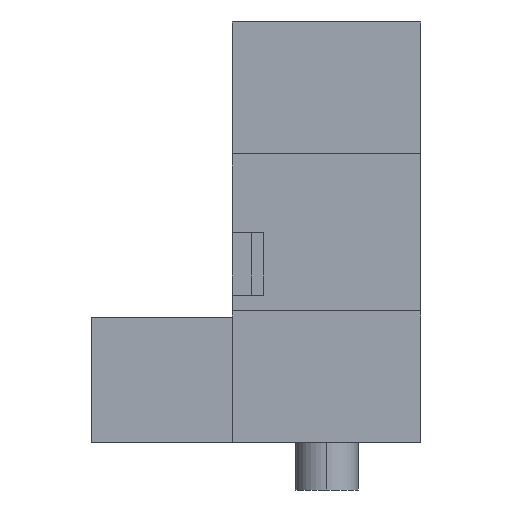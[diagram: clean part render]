
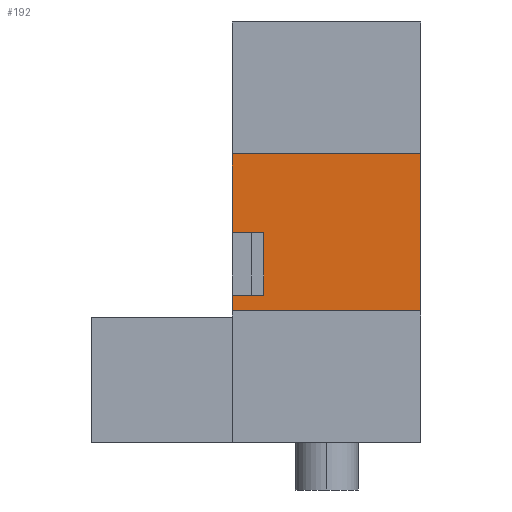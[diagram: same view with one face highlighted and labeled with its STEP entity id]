
A CAD part, left-side view. The second image highlights one B-rep face of the part: STEP entity #192.
In plain terms, the highlighted planar face has unit normal (-1, 0, 0) as drawn and (0, 1, 0) by its records, which use the part's own axes.
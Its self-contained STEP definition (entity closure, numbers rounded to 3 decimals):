
#26 = VERTEX_POINT ( 'NONE', #427 ) ;
#32 = EDGE_CURVE ( 'NONE', #26, #118, #421, .T. ) ;
#105 = VERTEX_POINT ( 'NONE', #600 ) ;
#110 = EDGE_CURVE ( 'NONE', #111, #105, #591, .T. ) ;
#111 = VERTEX_POINT ( 'NONE', #587 ) ;
#118 = VERTEX_POINT ( 'NONE', #583 ) ;
#148 = VERTEX_POINT ( 'NONE', #661 ) ;
#150 = EDGE_CURVE ( 'NONE', #148, #151, #660, .T. ) ;
#151 = VERTEX_POINT ( 'NONE', #656 ) ;
#192 = ADVANCED_FACE ( 'NONE', ( #727 ), #726, .F. ) ;
#193 = EDGE_LOOP ( 'NONE', ( #194, #198, #229, #230, #231, #232, #233, #234 ) ) ;
#194 = ORIENTED_EDGE ( 'NONE', *, *, #195, .F. ) ;
#195 = EDGE_CURVE ( 'NONE', #196, #197, #721, .T. ) ;
#196 = VERTEX_POINT ( 'NONE', #717 ) ;
#197 = VERTEX_POINT ( 'NONE', #716 ) ;
#198 = ORIENTED_EDGE ( 'NONE', *, *, #228, .T. ) ;
#204 = EDGE_CURVE ( 'NONE', #148, #26, #775, .T. ) ;
#228 = EDGE_CURVE ( 'NONE', #196, #111, #807, .T. ) ;
#229 = ORIENTED_EDGE ( 'NONE', *, *, #110, .T. ) ;
#230 = ORIENTED_EDGE ( 'NONE', *, *, #245, .F. ) ;
#231 = ORIENTED_EDGE ( 'NONE', *, *, #150, .F. ) ;
#232 = ORIENTED_EDGE ( 'NONE', *, *, #204, .T. ) ;
#233 = ORIENTED_EDGE ( 'NONE', *, *, #32, .T. ) ;
#234 = ORIENTED_EDGE ( 'NONE', *, *, #235, .F. ) ;
#235 = EDGE_CURVE ( 'NONE', #197, #118, #803, .T. ) ;
#245 = EDGE_CURVE ( 'NONE', #151, #105, #788, .T. ) ;
#418 = DIRECTION ( 'NONE',  ( 1., 0., 0. ) ) ;
#419 = VECTOR ( 'NONE', #418, 1000. ) ;
#420 = CARTESIAN_POINT ( 'NONE',  ( -2.5, 6.5, 3. ) ) ;
#421 = LINE ( 'NONE', #420, #419 ) ;
#427 = CARTESIAN_POINT ( 'NONE',  ( -2.5, 6.5, 3. ) ) ;
#583 = CARTESIAN_POINT ( 'NONE',  ( 0., 6.5, 3. ) ) ;
#587 = CARTESIAN_POINT ( 'NONE',  ( 2., 6.5, 3. ) ) ;
#588 = DIRECTION ( 'NONE',  ( 1., 0., 0. ) ) ;
#589 = VECTOR ( 'NONE', #588, 1000. ) ;
#590 = CARTESIAN_POINT ( 'NONE',  ( -2.5, 6.5, 3. ) ) ;
#591 = LINE ( 'NONE', #590, #589 ) ;
#600 = CARTESIAN_POINT ( 'NONE',  ( 2.5, 6.5, 3. ) ) ;
#656 = CARTESIAN_POINT ( 'NONE',  ( 2.5, 6.5, -3. ) ) ;
#657 = DIRECTION ( 'NONE',  ( 1., 0., 0. ) ) ;
#658 = VECTOR ( 'NONE', #657, 1000. ) ;
#659 = CARTESIAN_POINT ( 'NONE',  ( -2.5, 6.5, -3. ) ) ;
#660 = LINE ( 'NONE', #659, #658 ) ;
#661 = CARTESIAN_POINT ( 'NONE',  ( -2.5, 6.5, -3. ) ) ;
#716 = CARTESIAN_POINT ( 'NONE',  ( 0., 6.5, 2. ) ) ;
#717 = CARTESIAN_POINT ( 'NONE',  ( 2., 6.5, 2. ) ) ;
#718 = DIRECTION ( 'NONE',  ( -1., 0., 0. ) ) ;
#719 = VECTOR ( 'NONE', #718, 1000. ) ;
#720 = CARTESIAN_POINT ( 'NONE',  ( 2., 6.5, 2. ) ) ;
#721 = LINE ( 'NONE', #720, #719 ) ;
#722 = DIRECTION ( 'NONE',  ( 0., 0., -1. ) ) ;
#723 = DIRECTION ( 'NONE',  ( 0., -1., 0. ) ) ;
#724 = CARTESIAN_POINT ( 'NONE',  ( -2.5, 6.5, -3. ) ) ;
#725 = AXIS2_PLACEMENT_3D ( 'NONE', #724, #723, #722 ) ;
#726 = PLANE ( 'NONE',  #725 ) ;
#727 = FACE_OUTER_BOUND ( 'NONE', #193, .T. ) ;
#772 = DIRECTION ( 'NONE',  ( 0., 0., 1. ) ) ;
#773 = VECTOR ( 'NONE', #772, 1000. ) ;
#774 = CARTESIAN_POINT ( 'NONE',  ( -2.5, 6.5, -3. ) ) ;
#775 = LINE ( 'NONE', #774, #773 ) ;
#785 = DIRECTION ( 'NONE',  ( 0., 0., 1. ) ) ;
#786 = VECTOR ( 'NONE', #785, 1000. ) ;
#787 = CARTESIAN_POINT ( 'NONE',  ( 2.5, 6.5, -3. ) ) ;
#788 = LINE ( 'NONE', #787, #786 ) ;
#800 = DIRECTION ( 'NONE',  ( 0., 0., 1. ) ) ;
#801 = VECTOR ( 'NONE', #800, 1000. ) ;
#802 = CARTESIAN_POINT ( 'NONE',  ( 0., 6.5, 2.4 ) ) ;
#803 = LINE ( 'NONE', #802, #801 ) ;
#804 = DIRECTION ( 'NONE',  ( 0., 0., 1. ) ) ;
#805 = VECTOR ( 'NONE', #804, 1000. ) ;
#806 = CARTESIAN_POINT ( 'NONE',  ( 2., 6.5, 2.4 ) ) ;
#807 = LINE ( 'NONE', #806, #805 ) ;
